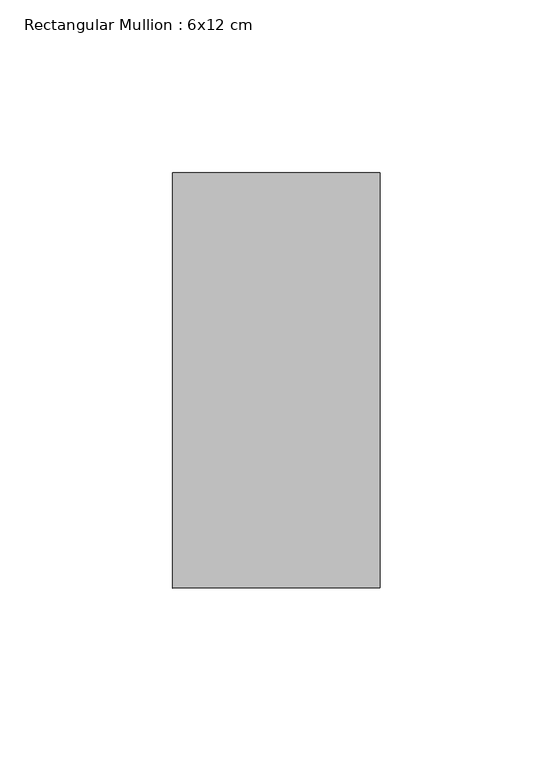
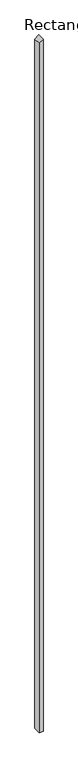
"""IFC4 building model written with IfcOpenShell, lengths in millimetres: member geometry, Rectangular Mullion : 6x12 cm."""

from ifc_helpers import new_model, si_unit, frame, origin, place, context, project, spatial, polyline, outline, extrude, source, transform, mapped, element, save


def rectangular_mullion_6x12_cm_64ab5f9d(model_context):
    return source(origin(), model_context, "Body", "SweptSolid", [
        extrude(outline(polyline([(-53.2294579, 30.0), (-104.1141863, -30.0), (-11752.5731297, -30.0), (-11752.5731297, 30.0), (-53.2294579, 30.0)])), frame((0.0, 85.0, 0.0), z_axis=(0.0, 1.0, 0.0), x_axis=(0.0, 0.0, 1.0)), (0.0, 0.0, 1.0), 120.0),
    ])


if __name__ == "__main__":
    model = new_model("IFC4")
    model_context = context("Model", 3, world=origin())
    ifc_project = project(units=[si_unit("LENGTHUNIT", "METRE", prefix="MILLI")], contexts=[model_context])
    site = spatial("IfcSite", under=ifc_project)
    building = spatial("IfcBuilding", under=site)
    placement = place(None, origin())
    rectangular_mullion_6x12_cm_shape = rectangular_mullion_6x12_cm_64ab5f9d(model_context)
    element("IfcMember", 1, ObjectType="Rectangular Mullion : 6x12 cm", at=placement, inside=building, context=model_context, shape_type="MappedRepresentation", body=[
        mapped(rectangular_mullion_6x12_cm_shape, transform((0.0, 0.0, 0.0), x_axis=(1.0, 0.0, 0.0), y_axis=(0.0, 1.0, 0.0), z_axis=(0.0, 0.0, 1.0))),
    ])
    save(model, "model.ifc")
